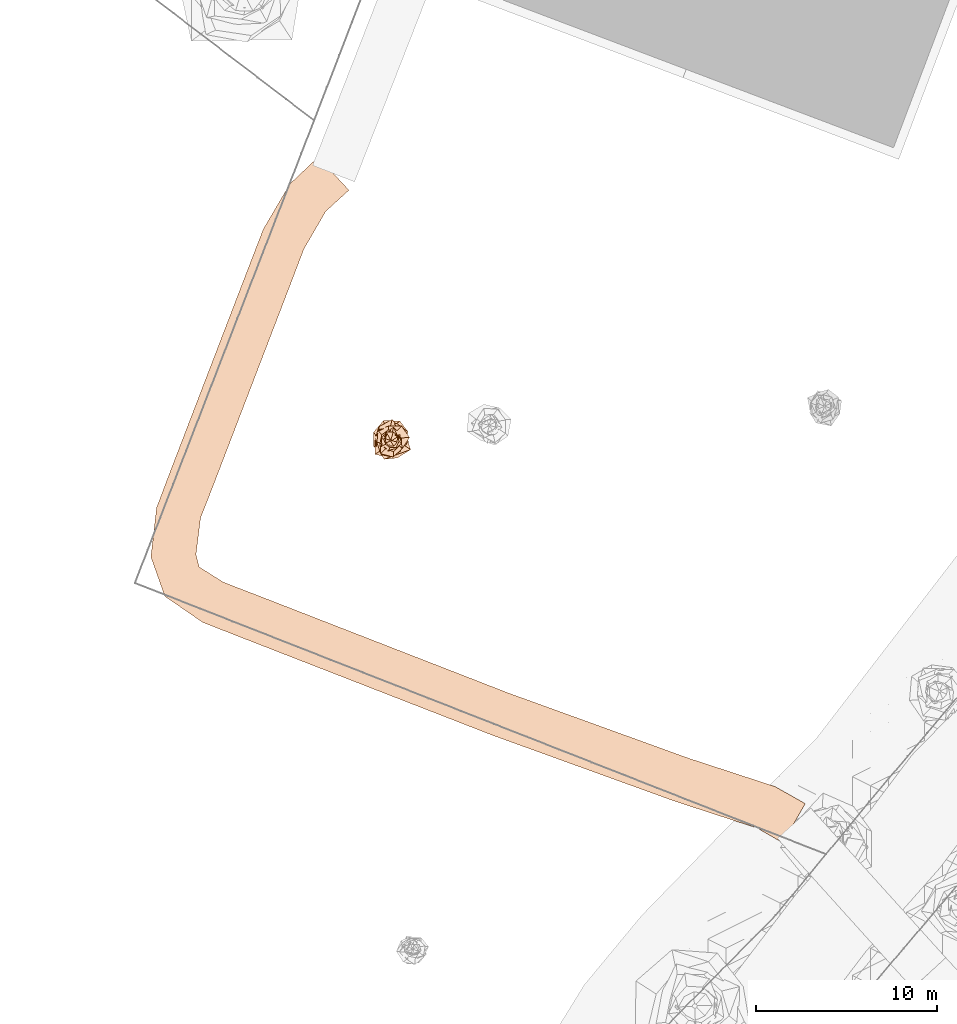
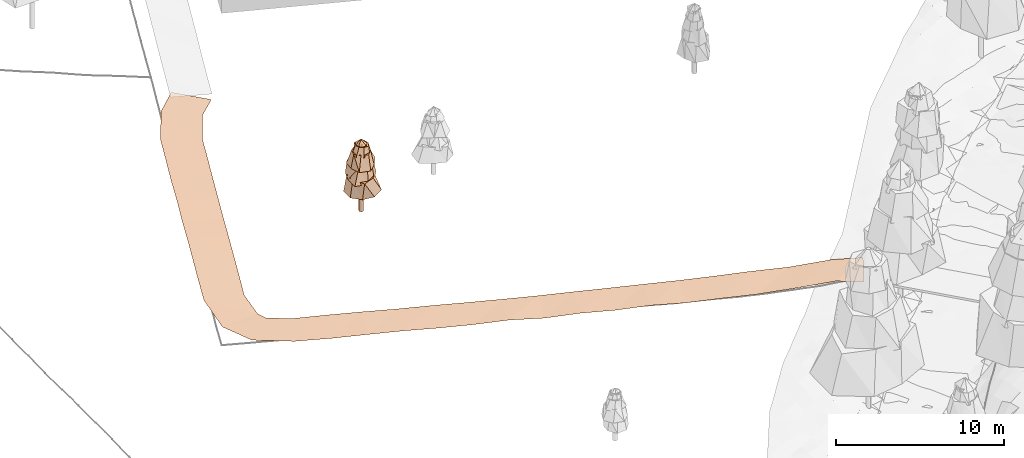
# Not in any storey, part 22 of 88: 2 geographic elements.
"""IFC4 model written with IfcOpenShell, lengths in metres."""

from ifc_helpers import new_model, si_unit, frame, origin_with_axes, place, context, subcontext, project, spatial, circle, extrude, faceted_brep, triangles, element, save


model = new_model("IFC4")

# Units and contexts
model_context = context("Model", 3, precision=1e-05, world=origin_with_axes())
body_context = subcontext(model_context, "Body", "Model", "MODEL_VIEW")
ifc_project = project(units=[si_unit("LENGTHUNIT", "METRE"), si_unit("AREAUNIT", "SQUARE_METRE"), si_unit("VOLUMEUNIT", "CUBIC_METRE"), si_unit("PLANEANGLEUNIT", "RADIAN")], contexts=[model_context])

# Sites
site_1_placement = place(None, origin_with_axes())
site_1 = spatial("IfcSite", under=ifc_project, at=site_1_placement, Name="CH907857693633", CompositionType="ELEMENT")
site_2_placement = place(None, origin_with_axes())
site_2 = spatial("IfcSite", under=site_1, at=site_2_placement, Name="Vegetation", CompositionType="ELEMENT")

# Geographic element
geographic_element_1_placement = place(None, frame((24.4620000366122, 44.6050034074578, 2.21392822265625), z_axis=(0.0, 0.0, 1.0), x_axis=(1.0, 0.0, 0.0)))
element("IfcGeographicElement", 1, at=geographic_element_1_placement, inside=site_2, Name="Tree_einzelbaum", ObjectType="VEGETATION", PredefinedType="USERDEFINED", context=body_context, shape_type="Brep", body=[
    extrude(circle(Radius=0.15), origin_with_axes(), (0.0, 0.0, 1.0), 1.43888989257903),
    faceted_brep([(1.09622666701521, -0.514648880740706, 1.43888989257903), (0.352635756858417, -0.976743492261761, 1.43888989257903), (-0.408801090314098, -0.870765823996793, 1.43888989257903), (-0.952681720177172, -0.343948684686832, 1.43888989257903), (-0.956650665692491, 0.449121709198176, 1.43888989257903), (-0.395868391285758, 1.09649083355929, 1.43888989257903), (0.502562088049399, 1.07048122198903, 1.43888989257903), (0.83483103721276, 0.301400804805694, 1.43888989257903), (0.962767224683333, 0.460883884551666, 2.68755863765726), (0.328887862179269, 0.932929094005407, 2.68755863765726), (-0.37664364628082, 0.786792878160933, 2.68755863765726), (-0.836045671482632, 0.294733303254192, 2.68755863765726), (-0.803823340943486, -0.384796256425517, 2.68755863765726), (-0.369526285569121, -1.04820476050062, 2.68755863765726), (0.370193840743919, -0.773319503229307, 2.68755863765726), (0.714675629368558, -0.25194641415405, 2.68755863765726), (0.83483103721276, 0.301400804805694, 1.43888989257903), (0.502562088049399, 1.07048122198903, 1.43888989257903), (0.328887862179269, 0.932929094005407, 2.68755863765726), (0.962767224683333, 0.460883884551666, 2.68755863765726), (0.502562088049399, 1.07048122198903, 1.43888989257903), (-0.395868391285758, 1.09649083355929, 1.43888989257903), (-0.37664364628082, 0.786792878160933, 2.68755863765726), (0.328887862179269, 0.932929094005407, 2.68755863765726), (-0.395868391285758, 1.09649083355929, 1.43888989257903), (-0.956650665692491, 0.449121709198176, 1.43888989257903), (-0.836045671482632, 0.294733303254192, 2.68755863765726), (-0.37664364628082, 0.786792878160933, 2.68755863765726), (-0.956650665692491, 0.449121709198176, 1.43888989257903), (-0.952681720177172, -0.343948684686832, 1.43888989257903), (-0.803823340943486, -0.384796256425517, 2.68755863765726), (-0.836045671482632, 0.294733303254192, 2.68755863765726), (-0.952681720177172, -0.343948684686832, 1.43888989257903), (-0.408801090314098, -0.870765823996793, 1.43888989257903), (-0.369526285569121, -1.04820476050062, 2.68755863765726), (-0.803823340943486, -0.384796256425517, 2.68755863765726), (-0.408801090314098, -0.870765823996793, 1.43888989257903), (0.352635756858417, -0.976743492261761, 1.43888989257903), (0.370193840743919, -0.773319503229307, 2.68755863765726), (-0.369526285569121, -1.04820476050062, 2.68755863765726), (0.352635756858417, -0.976743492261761, 1.43888989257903), (1.09622666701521, -0.514648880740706, 1.43888989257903), (0.714675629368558, -0.25194641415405, 2.68755863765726), (0.370193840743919, -0.773319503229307, 2.68755863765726), (1.09622666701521, -0.514648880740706, 1.43888989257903), (0.83483103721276, 0.301400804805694, 1.43888989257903), (0.962767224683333, 0.460883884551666, 2.68755863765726), (0.714675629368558, -0.25194641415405, 2.68755863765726)], [[[0, 1, 2, 3, 4, 5, 6, 7]], [[8, 9, 10, 11, 12, 13, 14, 15]], [[16, 17, 18, 19]], [[20, 21, 22, 23]], [[24, 25, 26, 27]], [[28, 29, 30, 31]], [[32, 33, 34, 35]], [[36, 37, 38, 39]], [[40, 41, 42, 43]], [[44, 45, 46, 47]]]),
    faceted_brep([(0.982147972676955, -0.061561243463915, 2.50025832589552), (0.541268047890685, -0.613659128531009, 2.50025832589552), (-0.0600865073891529, -0.958620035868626, 2.50025832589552), (-0.877156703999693, -0.773681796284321, 2.50025832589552), (-0.874464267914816, 0.0548116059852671, 2.50025832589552), (-0.661149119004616, 0.749573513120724, 2.50025832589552), (0.0728146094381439, 1.16168415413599, 2.50025832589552), (0.59354940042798, 0.523530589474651, 2.50025832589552), (0.603738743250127, 0.650677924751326, 3.53748884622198), (-0.02750492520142, 0.735049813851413, 3.53748884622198), (-0.642181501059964, 0.595855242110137, 3.53748884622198), (-0.637940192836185, -0.0238711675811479, 3.53748884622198), (-0.47942786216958, -0.516702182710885, 3.53748884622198), (0.0256267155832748, -0.684855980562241, 3.53748884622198), (0.472205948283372, -0.438141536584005, 3.53748884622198), (0.814564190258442, 0.0304802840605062, 3.53748884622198), (0.59354940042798, 0.523530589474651, 2.50025832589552), (0.0728146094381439, 1.16168415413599, 2.50025832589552), (-0.02750492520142, 0.735049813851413, 3.53748884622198), (0.603738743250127, 0.650677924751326, 3.53748884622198), (0.0728146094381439, 1.16168415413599, 2.50025832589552), (-0.661149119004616, 0.749573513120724, 2.50025832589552), (-0.642181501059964, 0.595855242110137, 3.53748884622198), (-0.02750492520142, 0.735049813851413, 3.53748884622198), (-0.661149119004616, 0.749573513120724, 2.50025832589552), (-0.874464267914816, 0.0548116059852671, 2.50025832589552), (-0.637940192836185, -0.0238711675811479, 3.53748884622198), (-0.642181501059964, 0.595855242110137, 3.53748884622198), (-0.874464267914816, 0.0548116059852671, 2.50025832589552), (-0.877156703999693, -0.773681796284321, 2.50025832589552), (-0.47942786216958, -0.516702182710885, 3.53748884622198), (-0.637940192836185, -0.0238711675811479, 3.53748884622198), (-0.877156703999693, -0.773681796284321, 2.50025832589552), (-0.0600865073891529, -0.958620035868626, 2.50025832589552), (0.0256267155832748, -0.684855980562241, 3.53748884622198), (-0.47942786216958, -0.516702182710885, 3.53748884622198), (-0.0600865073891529, -0.958620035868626, 2.50025832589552), (0.541268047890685, -0.613659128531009, 2.50025832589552), (0.472205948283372, -0.438141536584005, 3.53748884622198), (0.0256267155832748, -0.684855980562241, 3.53748884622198), (0.541268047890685, -0.613659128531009, 2.50025832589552), (0.982147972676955, -0.061561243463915, 2.50025832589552), (0.814564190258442, 0.0304802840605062, 3.53748884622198), (0.472205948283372, -0.438141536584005, 3.53748884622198), (0.982147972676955, -0.061561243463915, 2.50025832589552), (0.59354940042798, 0.523530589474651, 2.50025832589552), (0.603738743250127, 0.650677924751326, 3.53748884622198), (0.814564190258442, 0.0304802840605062, 3.53748884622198)], [[[0, 1, 2, 3, 4, 5, 6, 7]], [[8, 9, 10, 11, 12, 13, 14, 15]], [[16, 17, 18, 19]], [[20, 21, 22, 23]], [[24, 25, 26, 27]], [[28, 29, 30, 31]], [[32, 33, 34, 35]], [[36, 37, 38, 39]], [[40, 41, 42, 43]], [[44, 45, 46, 47]]]),
    faceted_brep([(0.621263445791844, -0.468118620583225, 3.38190426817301), (0.12995827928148, -0.924446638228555, 3.38190426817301), (-0.557923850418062, -0.74044842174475, 3.38190426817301), (-0.769619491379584, -0.108192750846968, 3.38190426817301), (-0.706138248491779, 0.532071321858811, 3.38190426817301), (-0.113117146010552, 0.804648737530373, 3.38190426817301), (0.59929520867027, 0.795354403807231, 3.38190426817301), (1.04126919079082, 0.146381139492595, 3.38190426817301), (0.577825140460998, 0.141197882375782, 4.37093484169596), (0.272504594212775, 0.448751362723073, 4.37093484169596), (-0.142173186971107, 0.581816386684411, 4.37093484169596), (-0.50042770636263, 0.303885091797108, 4.37093484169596), (-0.59623954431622, -0.145697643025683, 4.37093484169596), (-0.285084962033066, -0.469468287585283, 4.37093484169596), (0.152871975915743, -0.625599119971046, 4.37093484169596), (0.477208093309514, -0.289784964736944, 4.37093484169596), (1.04126919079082, 0.146381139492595, 3.38190426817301), (0.59929520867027, 0.795354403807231, 3.38190426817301), (0.272504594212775, 0.448751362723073, 4.37093484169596), (0.577825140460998, 0.141197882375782, 4.37093484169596), (0.59929520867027, 0.795354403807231, 3.38190426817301), (-0.113117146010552, 0.804648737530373, 3.38190426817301), (-0.142173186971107, 0.581816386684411, 4.37093484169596), (0.272504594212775, 0.448751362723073, 4.37093484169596), (-0.113117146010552, 0.804648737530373, 3.38190426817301), (-0.706138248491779, 0.532071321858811, 3.38190426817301), (-0.50042770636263, 0.303885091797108, 4.37093484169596), (-0.142173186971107, 0.581816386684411, 4.37093484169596), (-0.706138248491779, 0.532071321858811, 3.38190426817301), (-0.769619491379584, -0.108192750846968, 3.38190426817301), (-0.59623954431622, -0.145697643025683, 4.37093484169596), (-0.50042770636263, 0.303885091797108, 4.37093484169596), (-0.769619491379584, -0.108192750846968, 3.38190426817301), (-0.557923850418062, -0.74044842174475, 3.38190426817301), (-0.285084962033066, -0.469468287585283, 4.37093484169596), (-0.59623954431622, -0.145697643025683, 4.37093484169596), (-0.557923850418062, -0.74044842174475, 3.38190426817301), (0.12995827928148, -0.924446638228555, 3.38190426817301), (0.152871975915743, -0.625599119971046, 4.37093484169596), (-0.285084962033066, -0.469468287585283, 4.37093484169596), (0.12995827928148, -0.924446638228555, 3.38190426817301), (0.621263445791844, -0.468118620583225, 3.38190426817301), (0.477208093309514, -0.289784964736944, 4.37093484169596), (0.152871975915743, -0.625599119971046, 4.37093484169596), (0.621263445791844, -0.468118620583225, 3.38190426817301), (1.04126919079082, 0.146381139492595, 3.38190426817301), (0.577825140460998, 0.141197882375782, 4.37093484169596), (0.477208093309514, -0.289784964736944, 4.37093484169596)], [[[0, 1, 2, 3, 4, 5, 6, 7]], [[8, 9, 10, 11, 12, 13, 14, 15]], [[16, 17, 18, 19]], [[20, 21, 22, 23]], [[24, 25, 26, 27]], [[28, 29, 30, 31]], [[32, 33, 34, 35]], [[36, 37, 38, 39]], [[40, 41, 42, 43]], [[44, 45, 46, 47]]]),
    faceted_brep([(0.595299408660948, -0.137117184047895, 4.22258025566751), (0.306737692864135, -0.490328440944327, 4.22258025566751), (-0.139288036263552, -0.604724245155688, 4.22258025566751), (-0.532946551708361, -0.333398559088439, 4.22258025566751), (-0.561182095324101, 0.12925883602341, 4.22258025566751), (-0.287342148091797, 0.459324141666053, 4.22258025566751), (0.16611933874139, 0.721213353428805, 4.22258025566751), (0.514934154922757, 0.322130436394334, 4.22258025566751), (0.351165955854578, 0.271986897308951, 4.82099675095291), (0.042581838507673, 0.335126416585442, 4.82099675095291), (-0.245514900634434, 0.316987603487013, 4.82099675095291), (-0.383520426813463, 0.0487308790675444, 4.82099675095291), (-0.28464260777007, -0.220462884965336, 4.82099675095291), (-0.0516007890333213, -0.406107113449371, 4.82099675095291), (0.301498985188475, -0.389269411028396, 4.82099675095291), (0.452492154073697, -0.0574945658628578, 4.82099675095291), (0.514934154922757, 0.322130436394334, 4.22258025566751), (0.16611933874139, 0.721213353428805, 4.22258025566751), (0.042581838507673, 0.335126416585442, 4.82099675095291), (0.351165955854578, 0.271986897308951, 4.82099675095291), (0.16611933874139, 0.721213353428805, 4.22258025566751), (-0.287342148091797, 0.459324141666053, 4.22258025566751), (-0.245514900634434, 0.316987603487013, 4.82099675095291), (0.042581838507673, 0.335126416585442, 4.82099675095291), (-0.287342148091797, 0.459324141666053, 4.22258025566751), (-0.561182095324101, 0.12925883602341, 4.22258025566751), (-0.383520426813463, 0.0487308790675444, 4.82099675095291), (-0.245514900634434, 0.316987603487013, 4.82099675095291), (-0.561182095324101, 0.12925883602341, 4.22258025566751), (-0.532946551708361, -0.333398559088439, 4.22258025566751), (-0.28464260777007, -0.220462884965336, 4.82099675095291), (-0.383520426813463, 0.0487308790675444, 4.82099675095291), (-0.532946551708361, -0.333398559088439, 4.22258025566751), (-0.139288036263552, -0.604724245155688, 4.22258025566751), (-0.0516007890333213, -0.406107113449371, 4.82099675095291), (-0.28464260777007, -0.220462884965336, 4.82099675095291), (-0.139288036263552, -0.604724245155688, 4.22258025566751), (0.306737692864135, -0.490328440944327, 4.22258025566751), (0.301498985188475, -0.389269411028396, 4.82099675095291), (-0.0516007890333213, -0.406107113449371, 4.82099675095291), (0.306737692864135, -0.490328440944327, 4.22258025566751), (0.595299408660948, -0.137117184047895, 4.22258025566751), (0.452492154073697, -0.0574945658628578, 4.82099675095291), (0.301498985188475, -0.389269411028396, 4.82099675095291), (0.595299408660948, -0.137117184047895, 4.22258025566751), (0.514934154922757, 0.322130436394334, 4.22258025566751), (0.351165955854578, 0.271986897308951, 4.82099675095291), (0.452492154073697, -0.0574945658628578, 4.82099675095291)], [[[0, 1, 2, 3, 4, 5, 6, 7]], [[8, 9, 10, 11, 12, 13, 14, 15]], [[16, 17, 18, 19]], [[20, 21, 22, 23]], [[24, 25, 26, 27]], [[28, 29, 30, 31]], [[32, 33, 34, 35]], [[36, 37, 38, 39]], [[40, 41, 42, 43]], [[44, 45, 46, 47]]]),
    faceted_brep([(0.429998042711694, -0.126643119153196, 4.7312342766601), (0.207527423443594, -0.38080247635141, 4.7312342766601), (-0.110574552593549, -0.375439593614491, 4.7312342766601), (-0.321044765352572, -0.17496102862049, 4.7312342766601), (-0.383530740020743, 0.112957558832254, 4.7312342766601), (-0.2468695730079, 0.452993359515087, 4.7312342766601), (0.134580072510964, 0.456946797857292, 4.7312342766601), (0.447491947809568, 0.243871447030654, 4.7312342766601), (0.0393731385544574, 0.0268774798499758, 5.15156118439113), (0.00861568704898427, 0.0456794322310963, 5.15156118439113), (-0.0256033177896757, 0.0375066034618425, 5.15156118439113), (-0.0511742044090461, 0.00965206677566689, 5.15156118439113), (-0.0488336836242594, -0.0333355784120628, 5.15156118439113), (-0.00967419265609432, -0.0512915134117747, 5.15156118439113), (0.024358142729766, -0.0356825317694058, 5.15156118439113), (0.0608263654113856, -0.0114725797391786, 5.15156118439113), (0.447491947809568, 0.243871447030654, 4.7312342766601), (0.134580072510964, 0.456946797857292, 4.7312342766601), (0.00861568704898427, 0.0456794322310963, 5.15156118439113), (0.0393731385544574, 0.0268774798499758, 5.15156118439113), (0.134580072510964, 0.456946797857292, 4.7312342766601), (-0.2468695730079, 0.452993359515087, 4.7312342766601), (-0.0256033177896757, 0.0375066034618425, 5.15156118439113), (0.00861568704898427, 0.0456794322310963, 5.15156118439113), (-0.2468695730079, 0.452993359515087, 4.7312342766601), (-0.383530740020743, 0.112957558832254, 4.7312342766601), (-0.0511742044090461, 0.00965206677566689, 5.15156118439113), (-0.0256033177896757, 0.0375066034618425, 5.15156118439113), (-0.383530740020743, 0.112957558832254, 4.7312342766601), (-0.321044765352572, -0.17496102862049, 4.7312342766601), (-0.0488336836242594, -0.0333355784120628, 5.15156118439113), (-0.0511742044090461, 0.00965206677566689, 5.15156118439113), (-0.321044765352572, -0.17496102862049, 4.7312342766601), (-0.110574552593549, -0.375439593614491, 4.7312342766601), (-0.00967419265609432, -0.0512915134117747, 5.15156118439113), (-0.0488336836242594, -0.0333355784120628, 5.15156118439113), (-0.110574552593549, -0.375439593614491, 4.7312342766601), (0.207527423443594, -0.38080247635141, 4.7312342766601), (0.024358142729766, -0.0356825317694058, 5.15156118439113), (-0.00967419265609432, -0.0512915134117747, 5.15156118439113), (0.207527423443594, -0.38080247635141, 4.7312342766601), (0.429998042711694, -0.126643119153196, 4.7312342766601), (0.0608263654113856, -0.0114725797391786, 5.15156118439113), (0.024358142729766, -0.0356825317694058, 5.15156118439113), (0.429998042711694, -0.126643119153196, 4.7312342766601), (0.447491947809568, 0.243871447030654, 4.7312342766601), (0.0393731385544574, 0.0268774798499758, 5.15156118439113), (0.0608263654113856, -0.0114725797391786, 5.15156118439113)], [[[0, 1, 2, 3, 4, 5, 6, 7]], [[8, 9, 10, 11, 12, 13, 14, 15]], [[16, 17, 18, 19]], [[20, 21, 22, 23]], [[24, 25, 26, 27]], [[28, 29, 30, 31]], [[32, 33, 34, 35]], [[36, 37, 38, 39]], [[40, 41, 42, 43]], [[44, 45, 46, 47]]]),
])

# Site
site_3_placement = place(None, origin_with_axes())
site_3 = spatial("IfcSite", under=site_1, at=site_3_placement, Name="Roads", CompositionType="ELEMENT")

# Geographic element
geographic_element_2_placement = place(None, origin_with_axes())
element("IfcGeographicElement", 2, at=geographic_element_2_placement, inside=site_3, Name="Road_weg", ObjectType="ROAD", PredefinedType="USERDEFINED", context=body_context, shape_type="Tessellation", body=[
    triangles([(46.153205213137, 22.3324830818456, 2.90742187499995), (44.7425496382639, 23.1479638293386, 2.9806030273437), (42.4934324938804, 23.8777679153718, 2.8304565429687), (40.1276071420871, 24.650566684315, 2.71516113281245), (38.1071955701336, 25.3816179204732, 2.68610839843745), (36.1067955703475, 26.1056179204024, 2.62531738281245), (34.1063955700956, 26.8296179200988, 2.70087890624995), (32.1059955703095, 27.553617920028, 2.61616210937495), (30.0915596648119, 28.2827930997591, 2.6566284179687), (28.0892527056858, 29.0619949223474, 2.5300415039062), (26.1008777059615, 29.8358699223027, 2.61799316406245), (24.1125027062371, 30.609744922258, 2.5151489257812), (22.1241277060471, 31.3836199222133, 2.48847656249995), (20.1357527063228, 32.1574949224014, 2.5096557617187), (18.1473777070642, 32.9313699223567, 2.4731567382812), (16.1590027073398, 33.705244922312, 2.42609863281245), (14.0495195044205, 34.5338357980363, 2.44086914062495), (11.9584256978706, 35.9754441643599, 2.38593749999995), (11.1855677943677, 38.1524179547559, 2.29816894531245), (11.5025911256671, 40.88383905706, 2.4587524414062), (12.2783319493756, 42.9369123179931, 2.4729125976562), (13.0047069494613, 44.8300373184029, 2.53901367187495), (13.7310819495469, 46.7231623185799, 2.5905883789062), (14.4574569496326, 48.6162873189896, 2.52338867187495), (15.1838319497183, 50.5094123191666, 2.64594726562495), (15.910206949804, 52.4025373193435, 2.5567749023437), (16.6365819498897, 54.2956623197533, 2.66755371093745), (17.408799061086, 56.2936410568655, 2.71589355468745), (18.8703597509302, 58.786408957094, 2.74873046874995), (20.4403529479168, 60.2750564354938, 2.7074096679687), (47.3927948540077, 24.503523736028, 2.95490722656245), (45.7174504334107, 25.450042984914, 2.80097656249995), (43.2695675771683, 26.2542388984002, 2.6317260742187), (40.9383929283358, 27.0154401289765, 2.6584594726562), (38.9580044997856, 27.7323888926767, 2.5825317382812), (36.9576044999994, 28.4563888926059, 2.53291015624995), (34.9572044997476, 29.1803888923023, 2.5216186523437), (32.9568044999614, 29.9043888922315, 2.49995117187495), (30.9704404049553, 30.6232137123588, 2.49201660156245), (28.9959973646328, 31.3917618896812, 2.43073730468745), (27.0076223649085, 32.1656368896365, 2.40485839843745), (25.0192473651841, 32.9395118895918, 2.3944213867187), (23.0308723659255, 33.7133868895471, 2.39814453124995), (21.0424973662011, 34.4872618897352, 2.37226562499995), (19.0541223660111, 35.2611368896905, 2.3883178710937), (17.0657473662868, 36.0350118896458, 2.3802612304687), (15.1984805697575, 36.7541710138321, 2.35139160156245), (13.861574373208, 37.5965626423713, 2.34577636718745), (13.6824322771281, 38.2775888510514, 2.3054321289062), (13.9354089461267, 40.3081677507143, 2.3338745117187), (14.6124181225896, 42.0413444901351, 2.3669555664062), (15.3387931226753, 43.9344694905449, 2.40205078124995), (16.065168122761, 45.8275944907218, 2.4386108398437), (16.7915431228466, 47.7207194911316, 2.41962890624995), (17.5179181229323, 49.6138444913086, 2.47175292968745), (18.244293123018, 51.5069694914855, 2.52460937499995), (18.9706681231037, 53.4000944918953, 2.60908203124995), (19.6512010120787, 55.1883657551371, 2.6590698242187), (20.8576403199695, 57.2695978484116, 2.70637207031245), (22.1456471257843, 58.4469503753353, 2.68977050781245)], [[1, 31, 2], [31, 32, 2], [2, 32, 3], [32, 33, 3], [3, 33, 4], [33, 34, 4], [4, 34, 5], [34, 35, 5], [5, 35, 6], [35, 36, 6], [6, 36, 7], [36, 37, 7], [7, 37, 8], [37, 38, 8], [8, 38, 9], [38, 39, 9], [9, 39, 10], [39, 40, 10], [10, 40, 11], [40, 41, 11], [11, 41, 12], [41, 42, 12], [12, 42, 13], [42, 43, 13], [13, 43, 14], [43, 44, 14], [14, 44, 15], [44, 45, 15], [15, 45, 16], [45, 46, 16], [16, 46, 17], [46, 47, 17], [17, 47, 18], [47, 48, 18], [18, 48, 19], [48, 49, 19], [19, 49, 20], [49, 50, 20], [20, 50, 21], [50, 51, 21], [21, 51, 22], [51, 52, 22], [22, 52, 23], [52, 53, 23], [23, 53, 24], [53, 54, 24], [24, 54, 25], [54, 55, 25], [25, 55, 26], [55, 56, 26], [26, 56, 27], [56, 57, 27], [27, 57, 28], [57, 58, 28], [28, 58, 29], [58, 59, 29], [29, 59, 30], [59, 60, 30]]),
])

save(model, "model.ifc")
